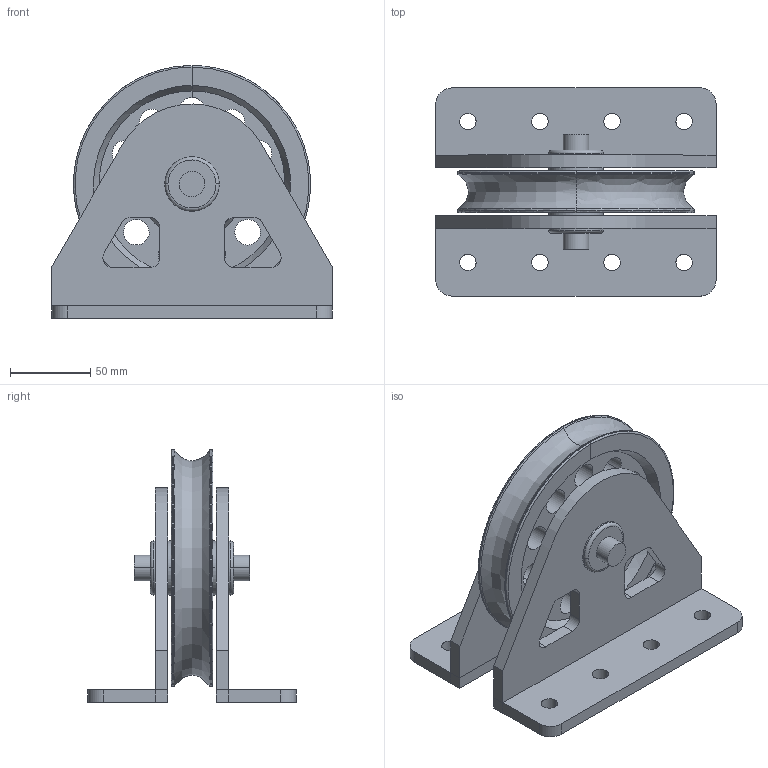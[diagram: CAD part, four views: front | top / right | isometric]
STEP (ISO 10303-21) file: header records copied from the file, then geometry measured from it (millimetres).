
FILE_DESCRIPTION(/* description */ (''),/* implementation_level */ '2;1');
FILE_NAME(/* name */ 'POULIE SIMPLE FIXE D 150',/* time_stamp */ '2005-05-31T09:01:27+02:00',/* author */ (''),/* organization */ (''),/* preprocessor_version */ 'ST-DEVELOPER v8',/* originating_system */ '',/* authorisation */ '');
FILE_SCHEMA (('CONFIG_CONTROL_DESIGN'));
Length unit declared in the file: millimetre
Products named in the file (1): 1
Bounding box: 175 x 130 x 158 mm (x, y, z)
Volume: 640831 mm3; surface area: 186852.1 mm2
Topology: 15 solids, 15 shells, 266 faces, 608 edges, 364 vertices
Faces by surface type: bspline 266
Entity records: 9519 total; most frequent: CARTESIAN_POINT 5917, ORIENTED_EDGE 1216, EDGE_CURVE 608, VERTEX_POINT 372, EDGE_LOOP 326, B_SPLINE_CURVE_WITH_KNOTS 306, ADVANCED_FACE 266, FACE_OUTER_BOUND 266
